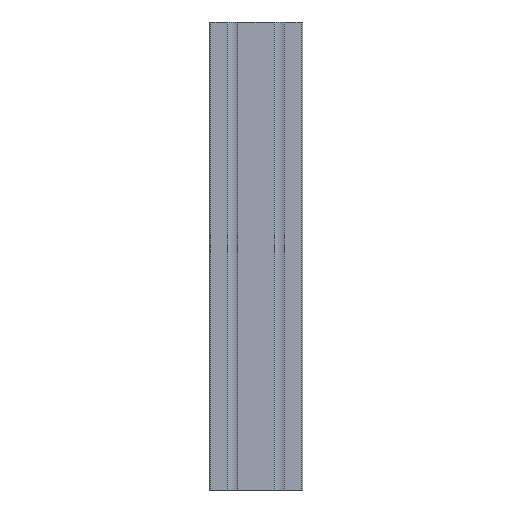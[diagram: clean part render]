
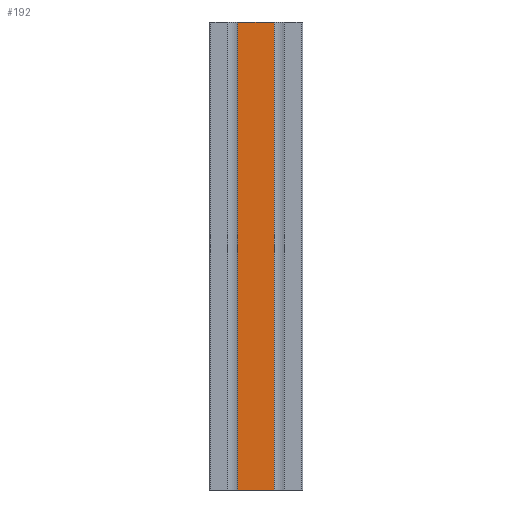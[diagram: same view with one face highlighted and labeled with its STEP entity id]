
A CAD part, front view. The second image highlights one B-rep face of the part: STEP entity #192.
In plain terms, the highlighted planar face has unit normal (0, -1, 0).
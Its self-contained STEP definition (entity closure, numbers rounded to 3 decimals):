
#19 = VERTEX_POINT ( 'NONE', #2084 ) ;
#32 = EDGE_CURVE ( 'NONE', #19, #1760, #2887, .T. ) ;
#192 = ADVANCED_FACE ( 'NONE', ( #962 ), #1623, .F. ) ;
#199 = ORIENTED_EDGE ( 'NONE', *, *, #2032, .F. ) ;
#213 = CARTESIAN_POINT ( 'NONE',  ( 11.75, -15., -150. ) ) ;
#353 = LINE ( 'NONE', #1537, #1785 ) ;
#362 = DIRECTION ( 'NONE',  ( 0., 0., 1. ) ) ;
#657 = VERTEX_POINT ( 'NONE', #2674 ) ;
#693 = CARTESIAN_POINT ( 'NONE',  ( -11.75, -15., -150. ) ) ;
#695 = DIRECTION ( 'NONE',  ( 0., 1., 0. ) ) ;
#813 = AXIS2_PLACEMENT_3D ( 'NONE', #1007, #695, #362 ) ;
#962 = FACE_OUTER_BOUND ( 'NONE', #2277, .T. ) ;
#969 = DIRECTION ( 'NONE',  ( 1., 0., 0. ) ) ;
#1007 = CARTESIAN_POINT ( 'NONE',  ( 0., -15., 150. ) ) ;
#1126 = ORIENTED_EDGE ( 'NONE', *, *, #2522, .T. ) ;
#1223 = DIRECTION ( 'NONE',  ( 1., 0., 0. ) ) ;
#1271 = CARTESIAN_POINT ( 'NONE',  ( -11.75, -15., 150. ) ) ;
#1436 = DIRECTION ( 'NONE',  ( 0., 0., -1. ) ) ;
#1537 = CARTESIAN_POINT ( 'NONE',  ( 0., -15., -150. ) ) ;
#1562 = VECTOR ( 'NONE', #1436, 1000. ) ;
#1581 = LINE ( 'NONE', #1271, #2900 ) ;
#1623 = PLANE ( 'NONE',  #813 ) ;
#1649 = EDGE_CURVE ( 'NONE', #657, #1857, #2054, .T. ) ;
#1667 = ORIENTED_EDGE ( 'NONE', *, *, #1649, .F. ) ;
#1756 = CARTESIAN_POINT ( 'NONE',  ( 11.75, -15., 150. ) ) ;
#1760 = VERTEX_POINT ( 'NONE', #693 ) ;
#1785 = VECTOR ( 'NONE', #1223, 1000. ) ;
#1857 = VERTEX_POINT ( 'NONE', #213 ) ;
#2032 = EDGE_CURVE ( 'NONE', #19, #657, #1581, .T. ) ;
#2036 = ORIENTED_EDGE ( 'NONE', *, *, #32, .T. ) ;
#2054 = LINE ( 'NONE', #1756, #1562 ) ;
#2084 = CARTESIAN_POINT ( 'NONE',  ( -11.75, -15., 150. ) ) ;
#2277 = EDGE_LOOP ( 'NONE', ( #1126, #1667, #199, #2036 ) ) ;
#2304 = DIRECTION ( 'NONE',  ( 0., 0., -1. ) ) ;
#2522 = EDGE_CURVE ( 'NONE', #1760, #1857, #353, .T. ) ;
#2603 = CARTESIAN_POINT ( 'NONE',  ( -11.75, -15., 150. ) ) ;
#2674 = CARTESIAN_POINT ( 'NONE',  ( 11.75, -15., 150. ) ) ;
#2841 = VECTOR ( 'NONE', #2304, 1000. ) ;
#2887 = LINE ( 'NONE', #2603, #2841 ) ;
#2900 = VECTOR ( 'NONE', #969, 1000. ) ;
